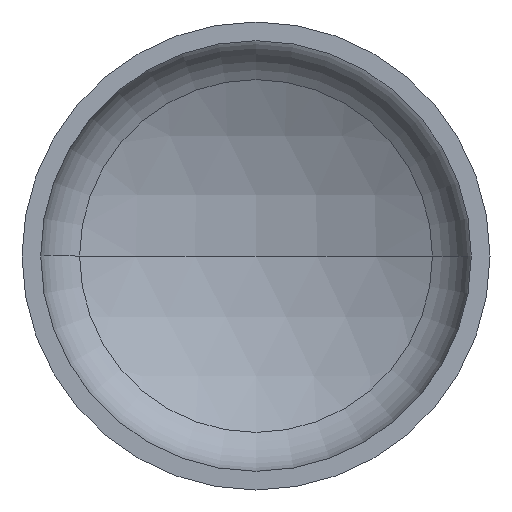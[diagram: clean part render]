
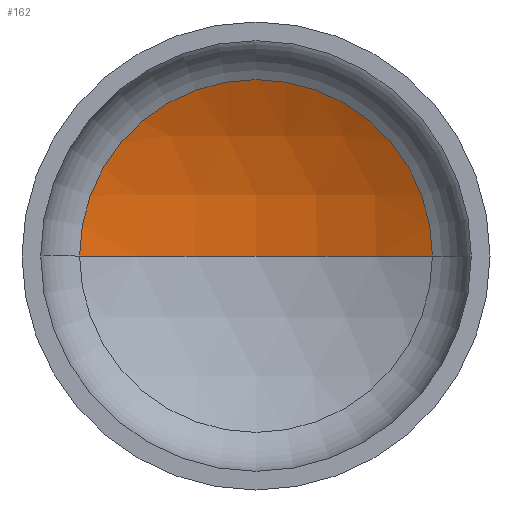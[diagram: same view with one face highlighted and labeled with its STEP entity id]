
A CAD part, front view. The second image highlights one B-rep face of the part: STEP entity #162.
In plain terms, the highlighted spherical face has radius 560 mm.
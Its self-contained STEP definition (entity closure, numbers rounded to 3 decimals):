
#2 = CARTESIAN_POINT ( 'NONE',  ( 0., -311.933, 0. ) ) ;
#5 = CARTESIAN_POINT ( 'NONE',  ( 0., -311.933, 0. ) ) ;
#22 = EDGE_LOOP ( 'NONE', ( #333, #182, #131 ) ) ;
#23 = AXIS2_PLACEMENT_3D ( 'NONE', #207, #211, #96 ) ;
#29 = AXIS2_PLACEMENT_3D ( 'NONE', #5, #308, #138 ) ;
#31 = AXIS2_PLACEMENT_3D ( 'NONE', #2, #102, #359 ) ;
#32 = AXIS2_PLACEMENT_3D ( 'NONE', #178, #184, #177 ) ;
#36 = CIRCLE ( 'NONE', #29, 560. ) ;
#60 = CIRCLE ( 'NONE', #31, 560. ) ;
#77 = EDGE_CURVE ( 'NONE', #338, #235, #254, .T. ) ;
#78 = EDGE_CURVE ( 'NONE', #103, #338, #60, .T. ) ;
#81 = EDGE_CURVE ( 'NONE', #103, #235, #36, .T. ) ;
#96 = DIRECTION ( 'NONE',  ( -1., 0., 0. ) ) ;
#102 = DIRECTION ( 'NONE',  ( 0., 0., -1. ) ) ;
#103 = VERTEX_POINT ( 'NONE', #263 ) ;
#131 = ORIENTED_EDGE ( 'NONE', *, *, #77, .T. ) ;
#134 = CARTESIAN_POINT ( 'NONE',  ( 263.822, 182.028, 0. ) ) ;
#138 = DIRECTION ( 'NONE',  ( 1., 0., 0. ) ) ;
#162 = ADVANCED_FACE ( 'NONE', ( #364 ), #368, .F. ) ;
#177 = DIRECTION ( 'NONE',  ( 1., 0., 0. ) ) ;
#178 = CARTESIAN_POINT ( 'NONE',  ( 0., 182.028, 0. ) ) ;
#182 = ORIENTED_EDGE ( 'NONE', *, *, #78, .T. ) ;
#184 = DIRECTION ( 'NONE',  ( 0., -1., 0. ) ) ;
#195 = CARTESIAN_POINT ( 'NONE',  ( -263.822, 182.028, 0. ) ) ;
#207 = CARTESIAN_POINT ( 'NONE',  ( 0., -311.933, 0. ) ) ;
#211 = DIRECTION ( 'NONE',  ( 0., 0., -1. ) ) ;
#235 = VERTEX_POINT ( 'NONE', #195 ) ;
#254 = CIRCLE ( 'NONE', #32, 263.822 ) ;
#263 = CARTESIAN_POINT ( 'NONE',  ( 0., 248.067, 0. ) ) ;
#308 = DIRECTION ( 'NONE',  ( 0., 0., 1. ) ) ;
#333 = ORIENTED_EDGE ( 'NONE', *, *, #81, .F. ) ;
#338 = VERTEX_POINT ( 'NONE', #134 ) ;
#359 = DIRECTION ( 'NONE',  ( -1., 0., 0. ) ) ;
#364 = FACE_OUTER_BOUND ( 'NONE', #22, .T. ) ;
#368 = SPHERICAL_SURFACE ( 'NONE', #23, 560. ) ;
